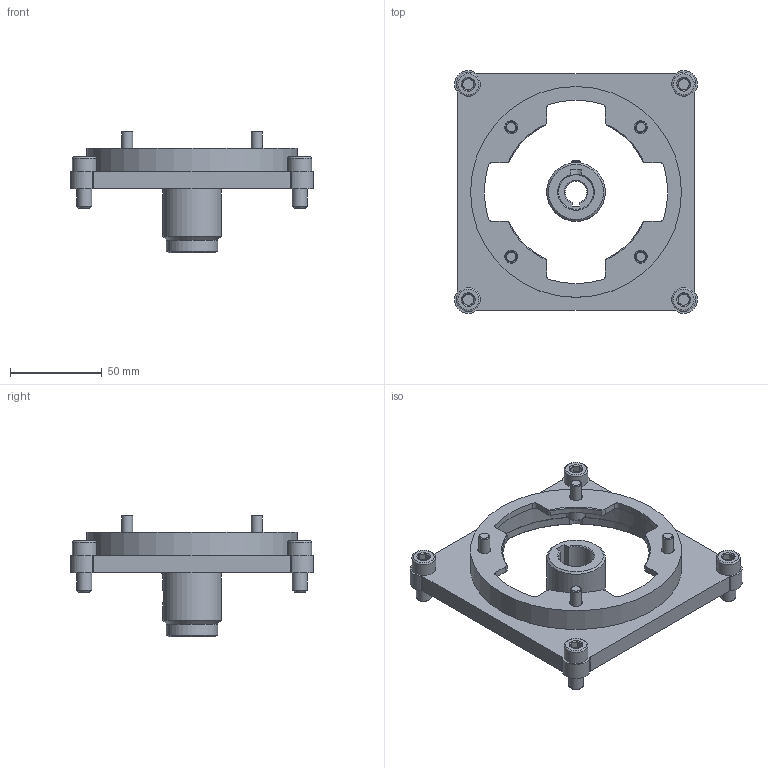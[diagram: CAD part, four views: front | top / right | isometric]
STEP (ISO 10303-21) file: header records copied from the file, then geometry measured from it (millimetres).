
FILE_DESCRIPTION(/* description */ (''),/* implementation_level */ '2;1');
FILE_NAME(/* name */ '3300002080.stp',/* time_stamp */ '2022-12-16T08:01:12+01:00',/* author */ ('marcop'),/* organization */ (''),/* preprocessor_version */ 'ST-DEVELOPER v19.2',/* originating_system */ 'Autodesk Inventor 2023',/* authorisation */ '');
FILE_SCHEMA (('AUTOMOTIVE_DESIGN { 1 0 10303 214 3 1 1 }'));
Length unit declared in the file: millimetre
Products named in the file (6): 3300002071; 5310000800; 4110822000; Vite TCEI M6x25; 5040050820; 5040150505
Assembly tree (11 placements, depth 2):
  3300002071
    5310000800
    4110822000
    Vite TCEI M6x25  x4
    5040050820  x4
    5040150505
Bounding box: 132.5 x 132.5 x 66.5 mm (x, y, z)
Volume: 100036.5 mm3; surface area: 60408.8 mm2
Topology: 11 solids, 11 shells, 502 faces, 1251 edges, 777 vertices
Faces by surface type: plane 195, cylinder 164, torus 56, cone 46, bspline 41
Full cylindrical faces by diameter (mm): 4.134 x1, 5 x1, 6 x4, 7 x4, 8 x5, 9 x4, 10 x4, 13 x4, 19 x1, 28 x1, 32 x1, 115 x1
Entity records: 12464 total; most frequent: CARTESIAN_POINT 3112, DIRECTION 2036, ORIENTED_EDGE 1880, EDGE_CURVE 940, AXIS2_PLACEMENT_3D 841, VERTEX_POINT 585, CIRCLE 489, EDGE_LOOP 411
